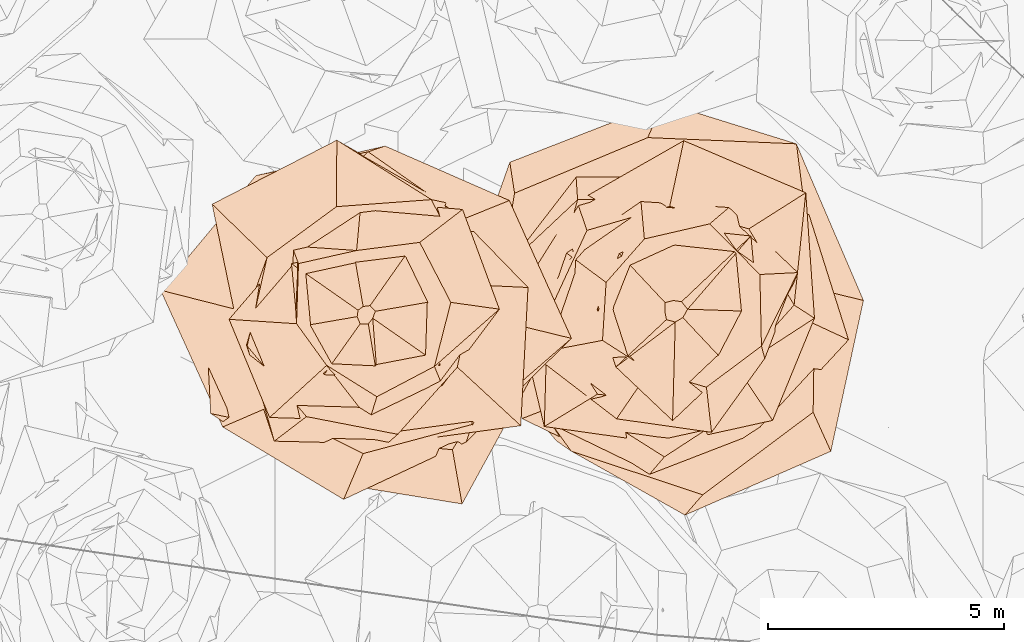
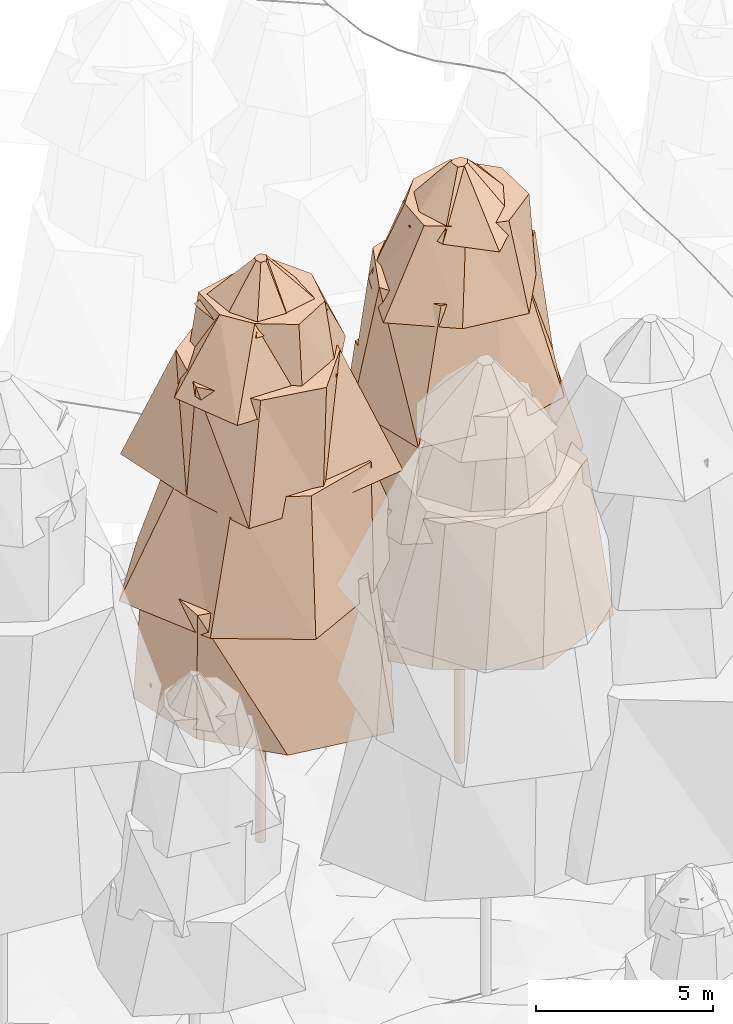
# Not in any storey, part 69 of 88: 2 geographic elements.
"""IFC4 model written with IfcOpenShell, lengths in metres."""

from ifc_helpers import new_model, si_unit, frame, origin_with_axes, place, context, subcontext, project, spatial, circle, extrude, faceted_brep, element, save


model = new_model("IFC4")

# Units and contexts
model_context = context("Model", 3, precision=1e-05, world=origin_with_axes())
body_context = subcontext(model_context, "Body", "Model", "MODEL_VIEW")
ifc_project = project(units=[si_unit("LENGTHUNIT", "METRE"), si_unit("AREAUNIT", "SQUARE_METRE"), si_unit("VOLUMEUNIT", "CUBIC_METRE"), si_unit("PLANEANGLEUNIT", "RADIAN")], contexts=[model_context])

# Sites
site_1_placement = place(None, origin_with_axes())
site_1 = spatial("IfcSite", under=ifc_project, at=site_1_placement, Name="CH907857693633", CompositionType="ELEMENT")
site_2_placement = place(None, origin_with_axes())
site_2 = spatial("IfcSite", under=site_1, at=site_2_placement, Name="Simulated_forest", CompositionType="ELEMENT")

# Geographic elements
geographic_element_1_placement = place(None, frame((216.919399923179, 79.4012847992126, 3.9697265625), z_axis=(0.0, 0.0, 1.0), x_axis=(1.0, 0.0, 0.0)))
element("IfcGeographicElement", 1, at=geographic_element_1_placement, inside=site_2, Name="Tree_SIMULATED_FOREST_DENSE", ObjectType="VEGETATION", PredefinedType="USERDEFINED", context=body_context, shape_type="Brep", body=[
    extrude(circle(Radius=0.15), origin_with_axes(), (0.0, 0.0, 1.0), 5.44147240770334),
    faceted_brep([(3.60621720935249, -1.17222230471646, 5.44147240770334), (2.04707284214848, -4.01883082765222, 5.44147240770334), (-1.13754924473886, -3.49954922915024, 5.44147240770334), (-2.9714273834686, -1.51355669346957, 5.44147240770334), (-3.50802063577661, 1.14030292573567, 5.44147240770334), (-1.61351241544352, 3.16766130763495, 5.44147240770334), (1.02493068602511, 3.1530902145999, 5.44147240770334), (3.35051486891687, 1.70665257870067, 5.44147240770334), (2.25963881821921, 1.45191672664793, 10.173741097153), (0.641656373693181, 2.9484686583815, 10.173741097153), (-1.63565121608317, 2.54558743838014, 10.173741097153), (-3.42517796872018, 0.745399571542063, 10.173741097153), (-3.27606927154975, -2.10501772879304, 10.173741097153), (-0.579746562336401, -2.66398751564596, 10.173741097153), (1.84340850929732, -2.86892309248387, 10.173741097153), (3.15721452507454, -0.687084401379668, 10.173741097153), (3.35051486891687, 1.70665257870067, 5.44147240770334), (1.02493068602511, 3.1530902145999, 5.44147240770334), (0.641656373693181, 2.9484686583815, 10.173741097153), (2.25963881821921, 1.45191672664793, 10.173741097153), (1.02493068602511, 3.1530902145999, 5.44147240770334), (-1.61351241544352, 3.16766130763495, 5.44147240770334), (-1.63565121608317, 2.54558743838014, 10.173741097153), (0.641656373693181, 2.9484686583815, 10.173741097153), (-1.61351241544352, 3.16766130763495, 5.44147240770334), (-3.50802063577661, 1.14030292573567, 5.44147240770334), (-3.42517796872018, 0.745399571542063, 10.173741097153), (-1.63565121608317, 2.54558743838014, 10.173741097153), (-3.50802063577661, 1.14030292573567, 5.44147240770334), (-2.9714273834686, -1.51355669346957, 5.44147240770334), (-3.27606927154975, -2.10501772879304, 10.173741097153), (-3.42517796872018, 0.745399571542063, 10.173741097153), (-2.9714273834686, -1.51355669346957, 5.44147240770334), (-1.13754924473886, -3.49954922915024, 5.44147240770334), (-0.579746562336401, -2.66398751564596, 10.173741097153), (-3.27606927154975, -2.10501772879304, 10.173741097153), (-1.13754924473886, -3.49954922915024, 5.44147240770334), (2.04707284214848, -4.01883082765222, 5.44147240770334), (1.84340850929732, -2.86892309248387, 10.173741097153), (-0.579746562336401, -2.66398751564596, 10.173741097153), (2.04707284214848, -4.01883082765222, 5.44147240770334), (3.60621720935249, -1.17222230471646, 5.44147240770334), (3.15721452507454, -0.687084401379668, 10.173741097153), (1.84340850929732, -2.86892309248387, 10.173741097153), (3.60621720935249, -1.17222230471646, 5.44147240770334), (3.35051486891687, 1.70665257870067, 5.44147240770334), (2.25963881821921, 1.45191672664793, 10.173741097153), (3.15721452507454, -0.687084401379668, 10.173741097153)], [[[0, 1, 2, 3, 4, 5, 6, 7]], [[8, 9, 10, 11, 12, 13, 14, 15]], [[16, 17, 18, 19]], [[20, 21, 22, 23]], [[24, 25, 26, 27]], [[28, 29, 30, 31]], [[32, 33, 34, 35]], [[36, 37, 38, 39]], [[40, 41, 42, 43]], [[44, 45, 46, 47]]]),
    faceted_brep([(4.36414875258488, -0.512030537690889, 9.46390079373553), (2.13685873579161, -2.70492901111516, 9.46390079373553), (-0.460292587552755, -3.92317483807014, 9.46390079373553), (-3.02288570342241, -2.38804038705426, 9.46390079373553), (-4.33906854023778, 0.509087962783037, 9.46390079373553), (-2.31968123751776, 2.93635370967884, 9.46390079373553), (0.417875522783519, 3.56164487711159, 9.46390079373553), (3.04893613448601, 2.40861988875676, 9.46390079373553), (2.08964653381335, 2.02061799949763, 13.6931343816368), (0.0577739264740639, 3.44011535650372, 13.6931343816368), (-1.65895875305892, 1.71563225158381, 13.6931343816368), (-2.50733089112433, 0.0421085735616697, 13.6931343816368), (-2.0264272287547, -1.95948705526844, 13.6931343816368), (-0.0495804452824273, -2.95223921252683, 13.6931343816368), (2.2587715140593, -2.33593587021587, 13.6931343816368), (2.4361389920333, -0.040912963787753, 13.6931343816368), (3.04893613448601, 2.40861988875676, 9.46390079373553), (0.417875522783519, 3.56164487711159, 9.46390079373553), (0.0577739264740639, 3.44011535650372, 13.6931343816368), (2.08964653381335, 2.02061799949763, 13.6931343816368), (0.417875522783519, 3.56164487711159, 9.46390079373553), (-2.31968123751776, 2.93635370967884, 9.46390079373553), (-1.65895875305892, 1.71563225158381, 13.6931343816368), (0.0577739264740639, 3.44011535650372, 13.6931343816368), (-2.31968123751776, 2.93635370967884, 9.46390079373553), (-4.33906854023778, 0.509087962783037, 9.46390079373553), (-2.50733089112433, 0.0421085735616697, 13.6931343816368), (-1.65895875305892, 1.71563225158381, 13.6931343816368), (-4.33906854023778, 0.509087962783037, 9.46390079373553), (-3.02288570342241, -2.38804038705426, 9.46390079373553), (-2.0264272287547, -1.95948705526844, 13.6931343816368), (-2.50733089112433, 0.0421085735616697, 13.6931343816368), (-3.02288570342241, -2.38804038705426, 9.46390079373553), (-0.460292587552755, -3.92317483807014, 9.46390079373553), (-0.0495804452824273, -2.95223921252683, 13.6931343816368), (-2.0264272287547, -1.95948705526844, 13.6931343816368), (-0.460292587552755, -3.92317483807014, 9.46390079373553), (2.13685873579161, -2.70492901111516, 9.46390079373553), (2.2587715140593, -2.33593587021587, 13.6931343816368), (-0.0495804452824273, -2.95223921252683, 13.6931343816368), (2.13685873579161, -2.70492901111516, 9.46390079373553), (4.36414875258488, -0.512030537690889, 9.46390079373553), (2.4361389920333, -0.040912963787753, 13.6931343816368), (2.2587715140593, -2.33593587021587, 13.6931343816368), (4.36414875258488, -0.512030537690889, 9.46390079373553), (3.04893613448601, 2.40861988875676, 9.46390079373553), (2.08964653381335, 2.02061799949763, 13.6931343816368), (2.4361389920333, -0.040912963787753, 13.6931343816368)], [[[0, 1, 2, 3, 4, 5, 6, 7]], [[8, 9, 10, 11, 12, 13, 14, 15]], [[16, 17, 18, 19]], [[20, 21, 22, 23]], [[24, 25, 26, 27]], [[28, 29, 30, 31]], [[32, 33, 34, 35]], [[36, 37, 38, 39]], [[40, 41, 42, 43]], [[44, 45, 46, 47]]]),
    faceted_brep([(3.29052519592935, -2.36209140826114, 13.0587493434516), (0.451205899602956, -2.74709300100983, 13.0587493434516), (-1.93025702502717, -2.6889557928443, 13.0587493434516), (-2.67517172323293, -0.439392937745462, 13.0587493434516), (-3.24688813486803, 2.33076670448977, 13.0587493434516), (-0.605508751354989, 3.68654056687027, 13.0587493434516), (1.69728237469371, 2.36440909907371, 13.0587493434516), (3.44436003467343, 0.565730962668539, 13.0587493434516), (2.30562488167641, 0.620251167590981, 16.9369457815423), (1.39806704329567, 2.42710019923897, 16.9369457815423), (-0.612901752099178, 2.27830531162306, 16.9369457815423), (-2.08320722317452, 1.1999765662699, 16.9369457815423), (-2.5049809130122, -0.67388123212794, 16.9369457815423), (-1.24951156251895, -2.16920195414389, 16.9369457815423), (0.684298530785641, -2.54370455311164, 16.9369457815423), (1.94699320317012, -1.12151407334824, 16.9369457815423), (3.44436003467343, 0.565730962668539, 13.0587493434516), (1.69728237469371, 2.36440909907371, 13.0587493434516), (1.39806704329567, 2.42710019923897, 16.9369457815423), (2.30562488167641, 0.620251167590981, 16.9369457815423), (1.69728237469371, 2.36440909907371, 13.0587493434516), (-0.605508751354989, 3.68654056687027, 13.0587493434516), (-0.612901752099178, 2.27830531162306, 16.9369457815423), (1.39806704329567, 2.42710019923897, 16.9369457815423), (-0.605508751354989, 3.68654056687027, 13.0587493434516), (-3.24688813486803, 2.33076670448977, 13.0587493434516), (-2.08320722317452, 1.1999765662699, 16.9369457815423), (-0.612901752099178, 2.27830531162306, 16.9369457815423), (-3.24688813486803, 2.33076670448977, 13.0587493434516), (-2.67517172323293, -0.439392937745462, 13.0587493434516), (-2.5049809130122, -0.67388123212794, 16.9369457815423), (-2.08320722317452, 1.1999765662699, 16.9369457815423), (-2.67517172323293, -0.439392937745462, 13.0587493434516), (-1.93025702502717, -2.6889557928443, 13.0587493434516), (-1.24951156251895, -2.16920195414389, 16.9369457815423), (-2.5049809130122, -0.67388123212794, 16.9369457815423), (-1.93025702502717, -2.6889557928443, 13.0587493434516), (0.451205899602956, -2.74709300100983, 13.0587493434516), (0.684298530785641, -2.54370455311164, 16.9369457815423), (-1.24951156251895, -2.16920195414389, 16.9369457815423), (0.451205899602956, -2.74709300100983, 13.0587493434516), (3.29052519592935, -2.36209140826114, 13.0587493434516), (1.94699320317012, -1.12151407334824, 16.9369457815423), (0.684298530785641, -2.54370455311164, 16.9369457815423), (3.29052519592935, -2.36209140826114, 13.0587493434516), (3.44436003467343, 0.565730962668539, 13.0587493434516), (2.30562488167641, 0.620251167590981, 16.9369457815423), (1.94699320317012, -1.12151407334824, 16.9369457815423)], [[[0, 1, 2, 3, 4, 5, 6, 7]], [[8, 9, 10, 11, 12, 13, 14, 15]], [[16, 17, 18, 19]], [[20, 21, 22, 23]], [[24, 25, 26, 27]], [[28, 29, 30, 31]], [[32, 33, 34, 35]], [[36, 37, 38, 39]], [[40, 41, 42, 43]], [[44, 45, 46, 47]]]),
    faceted_brep([(1.62731865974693, -1.50915315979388, 16.3552163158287), (0.0848223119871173, -2.25144218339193, 16.3552163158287), (-2.02913205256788, -2.18801148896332, 16.3552163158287), (-2.88771062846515, -0.108793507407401, 16.3552163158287), (-1.55798197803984, 1.44485126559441, 16.3552163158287), (-0.0905728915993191, 2.40408005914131, 16.3552163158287), (2.05767863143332, 2.21879324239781, 16.3552163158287), (2.83673106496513, 0.106872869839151, 16.3552163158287), (1.80925295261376, 0.250641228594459, 18.7833159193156), (1.15092157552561, 1.52108226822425, 18.7833159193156), (-0.186963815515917, 1.34959773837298, 18.7833159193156), (-1.41758719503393, 1.07261239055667, 18.7833159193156), (-1.45860030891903, -0.20206426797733, 18.7833159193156), (-0.820423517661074, -1.08428905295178, 18.7833159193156), (0.242210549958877, -1.74839612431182, 18.7833159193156), (1.46212570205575, -1.10631229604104, 18.7833159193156), (2.83673106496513, 0.106872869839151, 16.3552163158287), (2.05767863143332, 2.21879324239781, 16.3552163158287), (1.15092157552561, 1.52108226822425, 18.7833159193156), (1.80925295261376, 0.250641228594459, 18.7833159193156), (2.05767863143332, 2.21879324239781, 16.3552163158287), (-0.0905728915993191, 2.40408005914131, 16.3552163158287), (-0.186963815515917, 1.34959773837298, 18.7833159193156), (1.15092157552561, 1.52108226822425, 18.7833159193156), (-0.0905728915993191, 2.40408005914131, 16.3552163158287), (-1.55798197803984, 1.44485126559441, 16.3552163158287), (-1.41758719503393, 1.07261239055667, 18.7833159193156), (-0.186963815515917, 1.34959773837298, 18.7833159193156), (-1.55798197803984, 1.44485126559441, 16.3552163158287), (-2.88771062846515, -0.108793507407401, 16.3552163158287), (-1.45860030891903, -0.20206426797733, 18.7833159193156), (-1.41758719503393, 1.07261239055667, 18.7833159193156), (-2.88771062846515, -0.108793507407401, 16.3552163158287), (-2.02913205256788, -2.18801148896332, 16.3552163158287), (-0.820423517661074, -1.08428905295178, 18.7833159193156), (-1.45860030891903, -0.20206426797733, 18.7833159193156), (-2.02913205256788, -2.18801148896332, 16.3552163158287), (0.0848223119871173, -2.25144218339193, 16.3552163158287), (0.242210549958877, -1.74839612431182, 18.7833159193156), (-0.820423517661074, -1.08428905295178, 18.7833159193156), (0.0848223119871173, -2.25144218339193, 16.3552163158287), (1.62731865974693, -1.50915315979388, 16.3552163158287), (1.46212570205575, -1.10631229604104, 18.7833159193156), (0.242210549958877, -1.74839612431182, 18.7833159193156), (1.62731865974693, -1.50915315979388, 16.3552163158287), (2.83673106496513, 0.106872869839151, 16.3552163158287), (1.80925295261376, 0.250641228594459, 18.7833159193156), (1.46212570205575, -1.10631229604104, 18.7833159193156)], [[[0, 1, 2, 3, 4, 5, 6, 7]], [[8, 9, 10, 11, 12, 13, 14, 15]], [[16, 17, 18, 19]], [[20, 21, 22, 23]], [[24, 25, 26, 27]], [[28, 29, 30, 31]], [[32, 33, 34, 35]], [[36, 37, 38, 39]], [[40, 41, 42, 43]], [[44, 45, 46, 47]]]),
    faceted_brep([(1.5795820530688, -1.08056726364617, 18.4191009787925), (0.250547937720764, -1.33562158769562, 18.4191009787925), (-0.876327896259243, -1.28102327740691, 18.4191009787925), (-1.44012502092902, -0.270151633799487, 18.4191009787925), (-1.56583989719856, 1.07116647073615, 18.4191009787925), (-0.254689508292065, 1.35769948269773, 18.4191009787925), (1.03835841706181, 1.51788081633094, 18.4191009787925), (1.62514408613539, 0.304859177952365, 18.4191009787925), (0.210912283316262, 0.0618915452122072, 20.1149366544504), (0.0994744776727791, 0.18210229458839, 20.1149366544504), (-0.0479970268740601, 0.163562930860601, 20.1149366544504), (-0.156229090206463, 0.0853410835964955, 20.1149366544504), (-0.175047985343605, -0.0513672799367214, 20.1149366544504), (-0.111398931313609, -0.203931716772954, 20.1149366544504), (0.0607596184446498, -0.207054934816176, 20.1149366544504), (0.154805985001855, -0.0845637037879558, 20.1149366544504), (1.62514408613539, 0.304859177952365, 18.4191009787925), (1.03835841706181, 1.51788081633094, 18.4191009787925), (0.0994744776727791, 0.18210229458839, 20.1149366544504), (0.210912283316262, 0.0618915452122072, 20.1149366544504), (1.03835841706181, 1.51788081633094, 18.4191009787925), (-0.254689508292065, 1.35769948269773, 18.4191009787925), (-0.0479970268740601, 0.163562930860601, 20.1149366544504), (0.0994744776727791, 0.18210229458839, 20.1149366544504), (-0.254689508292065, 1.35769948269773, 18.4191009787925), (-1.56583989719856, 1.07116647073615, 18.4191009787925), (-0.156229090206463, 0.0853410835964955, 20.1149366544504), (-0.0479970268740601, 0.163562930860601, 20.1149366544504), (-1.56583989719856, 1.07116647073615, 18.4191009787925), (-1.44012502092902, -0.270151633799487, 18.4191009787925), (-0.175047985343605, -0.0513672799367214, 20.1149366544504), (-0.156229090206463, 0.0853410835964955, 20.1149366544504), (-1.44012502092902, -0.270151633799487, 18.4191009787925), (-0.876327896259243, -1.28102327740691, 18.4191009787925), (-0.111398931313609, -0.203931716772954, 20.1149366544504), (-0.175047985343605, -0.0513672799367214, 20.1149366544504), (-0.876327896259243, -1.28102327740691, 18.4191009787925), (0.250547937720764, -1.33562158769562, 18.4191009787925), (0.0607596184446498, -0.207054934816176, 20.1149366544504), (-0.111398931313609, -0.203931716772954, 20.1149366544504), (0.250547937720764, -1.33562158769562, 18.4191009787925), (1.5795820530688, -1.08056726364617, 18.4191009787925), (0.154805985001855, -0.0845637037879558, 20.1149366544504), (0.0607596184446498, -0.207054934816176, 20.1149366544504), (1.5795820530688, -1.08056726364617, 18.4191009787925), (1.62514408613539, 0.304859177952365, 18.4191009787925), (0.210912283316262, 0.0618915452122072, 20.1149366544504), (0.154805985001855, -0.0845637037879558, 20.1149366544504)], [[[0, 1, 2, 3, 4, 5, 6, 7]], [[8, 9, 10, 11, 12, 13, 14, 15]], [[16, 17, 18, 19]], [[20, 21, 22, 23]], [[24, 25, 26, 27]], [[28, 29, 30, 31]], [[32, 33, 34, 35]], [[36, 37, 38, 39]], [[40, 41, 42, 43]], [[44, 45, 46, 47]]]),
])
geographic_element_2_placement = place(None, frame((223.461550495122, 79.4831578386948, 4.37225341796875), z_axis=(0.0, 0.0, 1.0), x_axis=(1.0, 0.0, 0.0)))
element("IfcGeographicElement", 2, at=geographic_element_2_placement, inside=site_2, Name="Tree_SIMULATED_FOREST_DENSE", ObjectType="VEGETATION", PredefinedType="USERDEFINED", context=body_context, shape_type="Brep", body=[
    extrude(circle(Radius=0.15), origin_with_axes(), (0.0, 0.0, 1.0), 5.68957282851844),
    faceted_brep([(3.31648027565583, -2.98615426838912, 5.68957282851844), (0.227315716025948, -4.33719371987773, 5.68957282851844), (-2.49207650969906, -2.7677480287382, 5.68957282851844), (-4.67895031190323, -0.24522744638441, 5.68957282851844), (-3.48399958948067, 3.13698842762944, 5.68957282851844), (-0.230723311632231, 4.4022107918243, 5.68957282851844), (2.77468128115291, 3.08161431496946, 5.68957282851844), (4.00683689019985, 0.210001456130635, 5.68957282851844), (2.98128002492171, 0.457784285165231, 10.732464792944), (2.58790372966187, 3.52684064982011, 10.732464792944), (-0.561860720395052, 3.65906868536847, 10.732464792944), (-3.38236667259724, 2.48189249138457, 10.732464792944), (-3.89741123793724, -0.59845891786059, 10.732464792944), (-2.18651675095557, -2.97982342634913, 10.732464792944), (0.600169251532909, -3.90854963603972, 10.732464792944), (2.94155773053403, -2.15843838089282, 10.732464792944), (4.00683689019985, 0.210001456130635, 5.68957282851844), (2.77468128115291, 3.08161431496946, 5.68957282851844), (2.58790372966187, 3.52684064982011, 10.732464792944), (2.98128002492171, 0.457784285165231, 10.732464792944), (2.77468128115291, 3.08161431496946, 5.68957282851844), (-0.230723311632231, 4.4022107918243, 5.68957282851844), (-0.561860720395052, 3.65906868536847, 10.732464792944), (2.58790372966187, 3.52684064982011, 10.732464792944), (-0.230723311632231, 4.4022107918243, 5.68957282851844), (-3.48399958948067, 3.13698842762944, 5.68957282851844), (-3.38236667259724, 2.48189249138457, 10.732464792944), (-0.561860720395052, 3.65906868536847, 10.732464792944), (-3.48399958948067, 3.13698842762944, 5.68957282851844), (-4.67895031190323, -0.24522744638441, 5.68957282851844), (-3.89741123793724, -0.59845891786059, 10.732464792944), (-3.38236667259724, 2.48189249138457, 10.732464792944), (-4.67895031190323, -0.24522744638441, 5.68957282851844), (-2.49207650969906, -2.7677480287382, 5.68957282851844), (-2.18651675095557, -2.97982342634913, 10.732464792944), (-3.89741123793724, -0.59845891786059, 10.732464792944), (-2.49207650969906, -2.7677480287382, 5.68957282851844), (0.227315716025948, -4.33719371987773, 5.68957282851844), (0.600169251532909, -3.90854963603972, 10.732464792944), (-2.18651675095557, -2.97982342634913, 10.732464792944), (0.227315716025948, -4.33719371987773, 5.68957282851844), (3.31648027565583, -2.98615426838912, 5.68957282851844), (2.94155773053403, -2.15843838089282, 10.732464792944), (0.600169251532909, -3.90854963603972, 10.732464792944), (3.31648027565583, -2.98615426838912, 5.68957282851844), (4.00683689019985, 0.210001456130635, 5.68957282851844), (2.98128002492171, 0.457784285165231, 10.732464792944), (2.94155773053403, -2.15843838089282, 10.732464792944)], [[[0, 1, 2, 3, 4, 5, 6, 7]], [[8, 9, 10, 11, 12, 13, 14, 15]], [[16, 17, 18, 19]], [[20, 21, 22, 23]], [[24, 25, 26, 27]], [[28, 29, 30, 31]], [[32, 33, 34, 35]], [[36, 37, 38, 39]], [[40, 41, 42, 43]], [[44, 45, 46, 47]]]),
    faceted_brep([(3.69104396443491, -0.62373528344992, 9.97603099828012), (1.85747047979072, -2.61290137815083, 9.97603099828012), (-0.60225027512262, -3.56390331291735, 9.97603099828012), (-3.2255397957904, -2.29298549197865, 9.97603099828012), (-3.85052597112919, 0.650685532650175, 9.97603099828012), (-2.0875419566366, 2.93654263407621, 9.97603099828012), (0.488807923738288, 2.89259175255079, 9.97603099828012), (2.8534354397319, 2.02846235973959, 9.97603099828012), (2.17078062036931, 1.8962294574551, 13.818763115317), (0.161091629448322, 2.38629941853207, 13.818763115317), (-2.04755846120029, 2.34402023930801, 13.818763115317), (-2.64553738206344, 0.178591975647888, 13.818763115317), (-2.14962211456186, -1.87774699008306, 13.818763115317), (-0.20955137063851, -3.10414833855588, 13.818763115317), (1.65101304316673, -1.89005982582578, 13.818763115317), (2.74896130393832, -0.185573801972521, 13.818763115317), (2.8534354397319, 2.02846235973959, 9.97603099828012), (0.488807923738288, 2.89259175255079, 9.97603099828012), (0.161091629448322, 2.38629941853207, 13.818763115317), (2.17078062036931, 1.8962294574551, 13.818763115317), (0.488807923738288, 2.89259175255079, 9.97603099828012), (-2.0875419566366, 2.93654263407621, 9.97603099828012), (-2.04755846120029, 2.34402023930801, 13.818763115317), (0.161091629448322, 2.38629941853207, 13.818763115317), (-2.0875419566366, 2.93654263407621, 9.97603099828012), (-3.85052597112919, 0.650685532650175, 9.97603099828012), (-2.64553738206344, 0.178591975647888, 13.818763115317), (-2.04755846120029, 2.34402023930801, 13.818763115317), (-3.85052597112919, 0.650685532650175, 9.97603099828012), (-3.2255397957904, -2.29298549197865, 9.97603099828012), (-2.14962211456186, -1.87774699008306, 13.818763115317), (-2.64553738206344, 0.178591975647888, 13.818763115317), (-3.2255397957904, -2.29298549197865, 9.97603099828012), (-0.60225027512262, -3.56390331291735, 9.97603099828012), (-0.20955137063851, -3.10414833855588, 13.818763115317), (-2.14962211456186, -1.87774699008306, 13.818763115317), (-0.60225027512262, -3.56390331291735, 9.97603099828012), (1.85747047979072, -2.61290137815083, 9.97603099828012), (1.65101304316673, -1.89005982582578, 13.818763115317), (-0.20955137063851, -3.10414833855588, 13.818763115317), (1.85747047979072, -2.61290137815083, 9.97603099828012), (3.69104396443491, -0.62373528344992, 9.97603099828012), (2.74896130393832, -0.185573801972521, 13.818763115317), (1.65101304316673, -1.89005982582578, 13.818763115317), (3.69104396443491, -0.62373528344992, 9.97603099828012), (2.8534354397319, 2.02846235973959, 9.97603099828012), (2.17078062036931, 1.8962294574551, 13.818763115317), (2.74896130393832, -0.185573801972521, 13.818763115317)], [[[0, 1, 2, 3, 4, 5, 6, 7]], [[8, 9, 10, 11, 12, 13, 14, 15]], [[16, 17, 18, 19]], [[20, 21, 22, 23]], [[24, 25, 26, 27]], [[28, 29, 30, 31]], [[32, 33, 34, 35]], [[36, 37, 38, 39]], [[40, 41, 42, 43]], [[44, 45, 46, 47]]]),
    faceted_brep([(2.97009599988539, -0.166342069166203, 13.2423532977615), (2.08385388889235, -2.33111707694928, 13.2423532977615), (-0.158285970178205, -2.82625152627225, 13.2423532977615), (-2.75298069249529, -2.46097014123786, 13.2423532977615), (-3.38435406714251, 0.189542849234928, 13.2423532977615), (-2.0591762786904, 2.30351130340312, 13.2423532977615), (0.201253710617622, 3.59345560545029, 13.2423532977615), (2.78529649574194, 2.48985818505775, 13.2423532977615), (1.57931928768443, 1.72497711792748, 17.3569752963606), (-0.0970832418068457, 2.20236568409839, 17.3569752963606), (-1.85002263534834, 1.69380590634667, 17.3569752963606), (-2.68693098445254, -0.118443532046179, 17.3569752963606), (-1.6258323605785, -1.77578000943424, 17.3569752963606), (0.0866913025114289, -1.96662107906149, 17.3569752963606), (1.33931436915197, -1.22622207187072, 17.3569752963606), (2.53889253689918, 0.111917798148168, 17.3569752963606), (2.78529649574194, 2.48985818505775, 13.2423532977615), (0.201253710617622, 3.59345560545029, 13.2423532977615), (-0.0970832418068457, 2.20236568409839, 17.3569752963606), (1.57931928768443, 1.72497711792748, 17.3569752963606), (0.201253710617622, 3.59345560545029, 13.2423532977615), (-2.0591762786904, 2.30351130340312, 13.2423532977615), (-1.85002263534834, 1.69380590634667, 17.3569752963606), (-0.0970832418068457, 2.20236568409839, 17.3569752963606), (-2.0591762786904, 2.30351130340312, 13.2423532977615), (-3.38435406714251, 0.189542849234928, 13.2423532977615), (-2.68693098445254, -0.118443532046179, 17.3569752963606), (-1.85002263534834, 1.69380590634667, 17.3569752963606), (-3.38435406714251, 0.189542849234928, 13.2423532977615), (-2.75298069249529, -2.46097014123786, 13.2423532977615), (-1.6258323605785, -1.77578000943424, 17.3569752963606), (-2.68693098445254, -0.118443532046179, 17.3569752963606), (-2.75298069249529, -2.46097014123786, 13.2423532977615), (-0.158285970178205, -2.82625152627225, 13.2423532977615), (0.0866913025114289, -1.96662107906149, 17.3569752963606), (-1.6258323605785, -1.77578000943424, 17.3569752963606), (-0.158285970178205, -2.82625152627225, 13.2423532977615), (2.08385388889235, -2.33111707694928, 13.2423532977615), (1.33931436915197, -1.22622207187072, 17.3569752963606), (0.0866913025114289, -1.96662107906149, 17.3569752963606), (2.08385388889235, -2.33111707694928, 13.2423532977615), (2.97009599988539, -0.166342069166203, 13.2423532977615), (2.53889253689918, 0.111917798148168, 17.3569752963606), (1.33931436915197, -1.22622207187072, 17.3569752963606), (2.97009599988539, -0.166342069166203, 13.2423532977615), (2.78529649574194, 2.48985818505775, 13.2423532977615), (1.57931928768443, 1.72497711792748, 17.3569752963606), (2.53889253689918, 0.111917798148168, 17.3569752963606)], [[[0, 1, 2, 3, 4, 5, 6, 7]], [[8, 9, 10, 11, 12, 13, 14, 15]], [[16, 17, 18, 19]], [[20, 21, 22, 23]], [[24, 25, 26, 27]], [[28, 29, 30, 31]], [[32, 33, 34, 35]], [[36, 37, 38, 39]], [[40, 41, 42, 43]], [[44, 45, 46, 47]]]),
    faceted_brep([(1.91648451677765, -1.01904751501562, 16.7397819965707), (0.790174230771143, -2.58467364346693, 16.7397819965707), (-1.22158020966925, -2.29738017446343, 16.7397819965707), (-3.01658759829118, -0.92221692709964, 16.7397819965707), (-2.28150897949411, 1.21314105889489, 16.7397819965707), (-0.704609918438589, 2.30479129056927, 16.7397819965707), (1.1581000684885, 2.17799544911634, 16.7397819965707), (2.6160890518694, 0.79977840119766, 16.7397819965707), (1.81332111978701, 0.759598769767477, 19.3982941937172), (0.750258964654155, 1.83194008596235, 19.3982941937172), (-0.633548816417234, 1.51241352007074, 19.3982941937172), (-1.44370616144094, 0.591260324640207, 19.3982941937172), (-1.52032104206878, -0.636861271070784, 19.3982941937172), (-0.522567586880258, -1.27597610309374, 19.3982941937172), (0.681857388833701, -1.62773618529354, 19.3982941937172), (1.84637993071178, -0.756172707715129, 19.3982941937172), (2.6160890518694, 0.79977840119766, 16.7397819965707), (1.1581000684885, 2.17799544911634, 16.7397819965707), (0.750258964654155, 1.83194008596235, 19.3982941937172), (1.81332111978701, 0.759598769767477, 19.3982941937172), (1.1581000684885, 2.17799544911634, 16.7397819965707), (-0.704609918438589, 2.30479129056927, 16.7397819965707), (-0.633548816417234, 1.51241352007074, 19.3982941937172), (0.750258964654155, 1.83194008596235, 19.3982941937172), (-0.704609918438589, 2.30479129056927, 16.7397819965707), (-2.28150897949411, 1.21314105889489, 16.7397819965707), (-1.44370616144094, 0.591260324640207, 19.3982941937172), (-0.633548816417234, 1.51241352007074, 19.3982941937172), (-2.28150897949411, 1.21314105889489, 16.7397819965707), (-3.01658759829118, -0.92221692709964, 16.7397819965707), (-1.52032104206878, -0.636861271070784, 19.3982941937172), (-1.44370616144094, 0.591260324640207, 19.3982941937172), (-3.01658759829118, -0.92221692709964, 16.7397819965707), (-1.22158020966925, -2.29738017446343, 16.7397819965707), (-0.522567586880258, -1.27597610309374, 19.3982941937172), (-1.52032104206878, -0.636861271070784, 19.3982941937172), (-1.22158020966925, -2.29738017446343, 16.7397819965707), (0.790174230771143, -2.58467364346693, 16.7397819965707), (0.681857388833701, -1.62773618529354, 19.3982941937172), (-0.522567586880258, -1.27597610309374, 19.3982941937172), (0.790174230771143, -2.58467364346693, 16.7397819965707), (1.91648451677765, -1.01904751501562, 16.7397819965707), (1.84637993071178, -0.756172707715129, 19.3982941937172), (0.681857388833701, -1.62773618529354, 19.3982941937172), (1.91648451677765, -1.01904751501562, 16.7397819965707), (2.6160890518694, 0.79977840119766, 16.7397819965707), (1.81332111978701, 0.759598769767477, 19.3982941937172), (1.84637993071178, -0.756172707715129, 19.3982941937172)], [[[0, 1, 2, 3, 4, 5, 6, 7]], [[8, 9, 10, 11, 12, 13, 14, 15]], [[16, 17, 18, 19]], [[20, 21, 22, 23]], [[24, 25, 26, 27]], [[28, 29, 30, 31]], [[32, 33, 34, 35]], [[36, 37, 38, 39]], [[40, 41, 42, 43]], [[44, 45, 46, 47]]]),
    faceted_brep([(1.77703921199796, -0.0269985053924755, 18.9995173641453), (1.16593460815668, -1.20190919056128, 18.9995173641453), (-0.0354988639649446, -2.33653205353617, 18.9995173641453), (-1.23650130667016, -1.19949134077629, 18.9995173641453), (-1.63208677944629, 0.0247962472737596, 18.9995173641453), (-1.16605972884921, 1.20203817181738, 18.9995173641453), (0.0265463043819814, 1.74727538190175, 18.9995173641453), (1.62312358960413, 1.57454155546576, 18.9995173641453), (0.154360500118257, 0.183043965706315, 20.6842215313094), (-0.0176619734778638, 0.207758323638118, 20.6842215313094), (-0.1940195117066, 0.163616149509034, 20.6842215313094), (-0.19998080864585, -0.0170007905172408, 20.6842215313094), (-0.166183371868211, -0.197063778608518, 20.6842215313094), (0.0210544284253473, -0.247663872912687, 20.6842215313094), (0.182002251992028, -0.153482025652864, 20.6842215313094), (0.282503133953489, 0.0240161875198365, 20.6842215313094), (1.62312358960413, 1.57454155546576, 18.9995173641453), (0.0265463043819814, 1.74727538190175, 18.9995173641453), (-0.0176619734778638, 0.207758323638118, 20.6842215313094), (0.154360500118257, 0.183043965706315, 20.6842215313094), (0.0265463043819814, 1.74727538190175, 18.9995173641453), (-1.16605972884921, 1.20203817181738, 18.9995173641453), (-0.1940195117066, 0.163616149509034, 20.6842215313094), (-0.0176619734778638, 0.207758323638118, 20.6842215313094), (-1.16605972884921, 1.20203817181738, 18.9995173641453), (-1.63208677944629, 0.0247962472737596, 18.9995173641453), (-0.19998080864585, -0.0170007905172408, 20.6842215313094), (-0.1940195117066, 0.163616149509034, 20.6842215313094), (-1.63208677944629, 0.0247962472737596, 18.9995173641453), (-1.23650130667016, -1.19949134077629, 18.9995173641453), (-0.166183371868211, -0.197063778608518, 20.6842215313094), (-0.19998080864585, -0.0170007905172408, 20.6842215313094), (-1.23650130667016, -1.19949134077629, 18.9995173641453), (-0.0354988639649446, -2.33653205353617, 18.9995173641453), (0.0210544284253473, -0.247663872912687, 20.6842215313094), (-0.166183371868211, -0.197063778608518, 20.6842215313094), (-0.0354988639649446, -2.33653205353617, 18.9995173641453), (1.16593460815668, -1.20190919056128, 18.9995173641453), (0.182002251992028, -0.153482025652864, 20.6842215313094), (0.0210544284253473, -0.247663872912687, 20.6842215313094), (1.16593460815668, -1.20190919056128, 18.9995173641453), (1.77703921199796, -0.0269985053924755, 18.9995173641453), (0.282503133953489, 0.0240161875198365, 20.6842215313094), (0.182002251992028, -0.153482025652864, 20.6842215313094), (1.77703921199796, -0.0269985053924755, 18.9995173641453), (1.62312358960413, 1.57454155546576, 18.9995173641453), (0.154360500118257, 0.183043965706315, 20.6842215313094), (0.282503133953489, 0.0240161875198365, 20.6842215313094)], [[[0, 1, 2, 3, 4, 5, 6, 7]], [[8, 9, 10, 11, 12, 13, 14, 15]], [[16, 17, 18, 19]], [[20, 21, 22, 23]], [[24, 25, 26, 27]], [[28, 29, 30, 31]], [[32, 33, 34, 35]], [[36, 37, 38, 39]], [[40, 41, 42, 43]], [[44, 45, 46, 47]]]),
])

save(model, "model.ifc")
